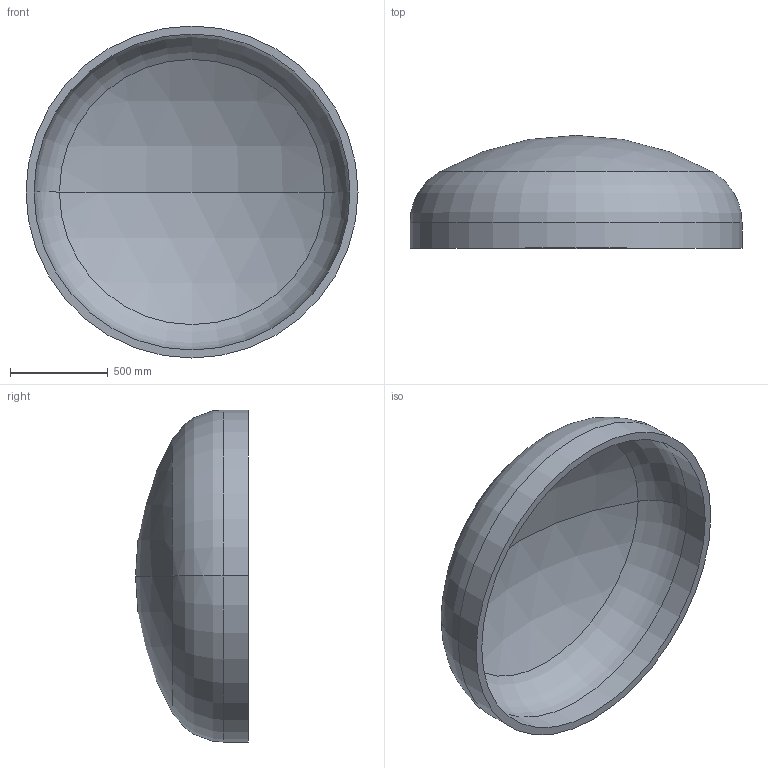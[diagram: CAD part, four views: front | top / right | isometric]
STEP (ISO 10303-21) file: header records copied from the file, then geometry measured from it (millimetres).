
FILE_DESCRIPTION (( 'STEP AP203' ), '1' );
FILE_NAME ('DIN 28013 Korbbogenform_-_Boden DIN 28013 - 1700 x 130 - I - s=41.step', '2016-07-01T11:49:35', ( '' ), ( '' ), 'SwSTEP 2.0', 'SolidWorks 2013', '' );
FILE_SCHEMA (( 'CONFIG_CONTROL_DESIGN' ));
Length unit declared in the file: millimetre
Products named in the file (1): DIN 28013 Korbbogenform_-_Boden DIN 28013 - 1700 x 130 - I - s=41
Bounding box: 1700 x 577.8 x 1700 mm (x, y, z)
Volume: 152481396.9 mm3; surface area: 7655323.4 mm2
Topology: 1 solids, 1 shells, 13 faces, 24 edges, 14 vertices
Faces by surface type: torus 4, cylinder 4, sphere 4, plane 1
Entity records: 407 total; most frequent: DIRECTION 72, CARTESIAN_POINT 52, ORIENTED_EDGE 48, AXIS2_PLACEMENT_3D 34, EDGE_CURVE 24, CIRCLE 20, EDGE_LOOP 14, VERTEX_POINT 14
